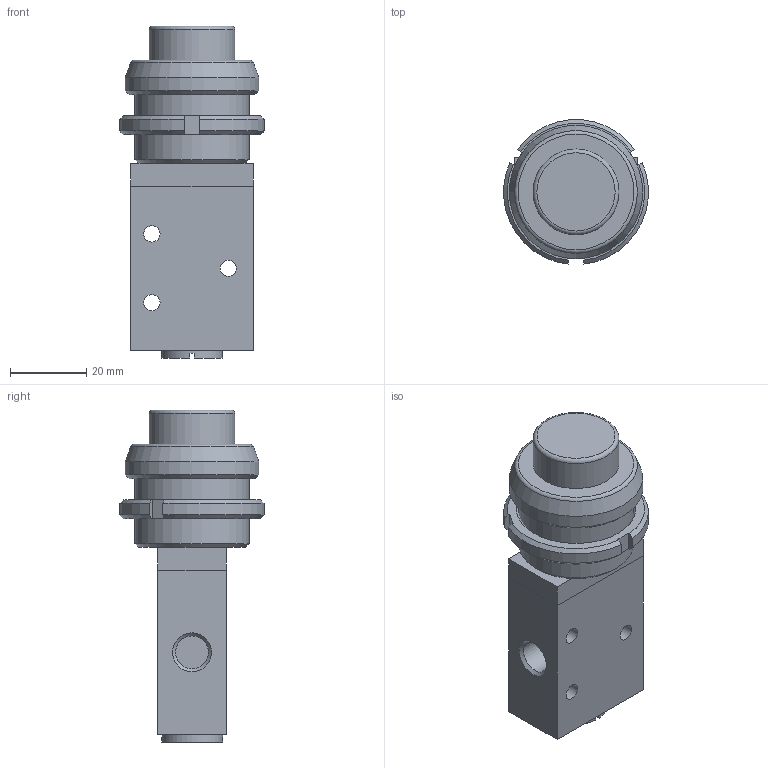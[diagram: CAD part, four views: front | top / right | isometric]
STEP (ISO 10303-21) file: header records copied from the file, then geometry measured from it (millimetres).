
FILE_DESCRIPTION((''),'2;1');
FILE_NAME('I:\Area Tecnica\Documenti\A-Roberto\_Inventor\Rev.Librerie\700\NEW\718_32_7_1-#.stp','2008-02-25T14:14:02',('rivolro1'),(''),'Autodesk Inventor 2008','Autodesk Inventor 2008','');
FILE_SCHEMA(('AUTOMOTIVE_DESIGN { 1 0 10303 214 1 1 1 1 }'));
Length unit declared in the file: millimetre
Products named in the file (3): 718_32_7_1-#; RS-105-28
Assembly tree (2 placements, depth 2):
  718_32_7_1-#
    718_32_7_1-#
    RS-105-28
Bounding box: 37.89 x 37.82 x 87 mm (x, y, z)
Volume: 52931.2 mm3; surface area: 13165.7 mm2
Topology: 2 solids, 2 shells, 66 faces, 152 edges, 97 vertices
Faces by surface type: plane 33, bspline 11, cylinder 10, cone 10, torus 2
Full cylindrical faces by diameter (mm): 4.25 x3, 16 x1, 22.5 x1, 30 x1, 35 x1
Entity records: 1979 total; most frequent: CARTESIAN_POINT 462, DIRECTION 286, ORIENTED_EDGE 256, EDGE_CURVE 128, AXIS2_PLACEMENT_3D 110, EDGE_LOOP 102, VERTEX_POINT 94, VECTOR 66
